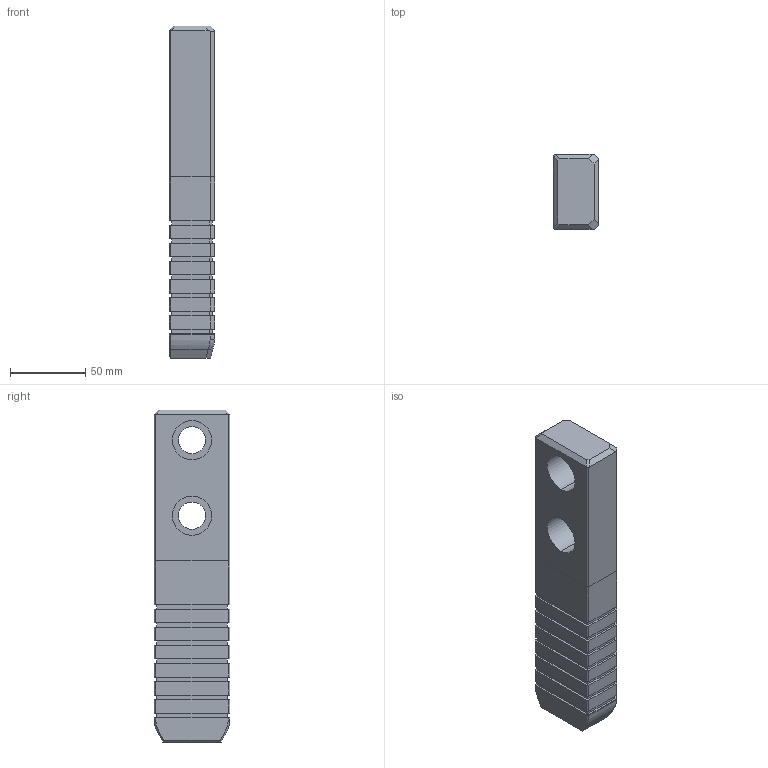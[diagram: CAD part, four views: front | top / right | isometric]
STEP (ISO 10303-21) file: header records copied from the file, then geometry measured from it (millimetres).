
FILE_DESCRIPTION((''),'2;1');
FILE_NAME('','2010-08-30T13:12:22+09:00',('misumi'),(''),'M/STEP i/f 1R2-14','CADmeister v5.1','');
FILE_SCHEMA(('AUTOMOTIVE_DESIGN'));
Length unit declared in the file: millimetre
Products named in the file (1): GWBZ50-220
Bounding box: 30 x 50 x 220 mm (x, y, z)
Volume: 294649.4 mm3; surface area: 42542.6 mm2
Topology: 1 solids, 1 shells, 181 faces, 467 edges, 304 vertices
Faces by surface type: plane 162, cylinder 11, bspline 6, cone 2
Entity records: 5767 total; most frequent: CARTESIAN_POINT 1295, ORIENTED_EDGE 934, DIRECTION 821, EDGE_CURVE 467, LINE 429, VECTOR 429, VERTEX_POINT 304, EDGE_LOOP 201
